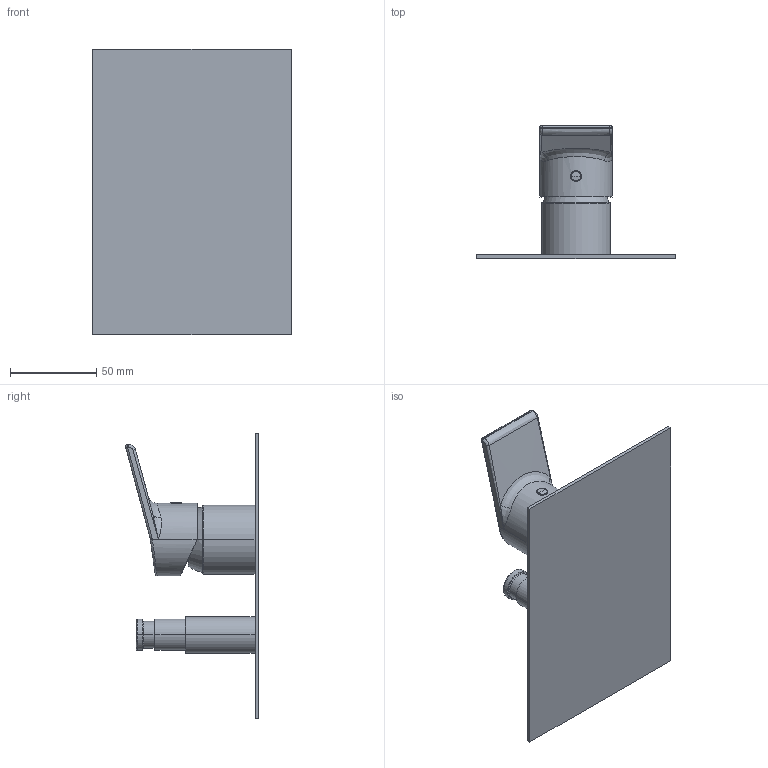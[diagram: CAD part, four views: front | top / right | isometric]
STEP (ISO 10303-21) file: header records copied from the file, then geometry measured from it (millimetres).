
FILE_DESCRIPTION((''),'2;1');
FILE_NAME('74010_SW0001','2025-07-14T11:27:50',('carloff'),(''),'CREO PARAMETRIC BY PTC INC, 2022014','CREO PARAMETRIC BY PTC INC, 2022014','');
FILE_SCHEMA(('CONFIG_CONTROL_DESIGN'));
Length unit declared in the file: millimetre
Products named in the file (1): 74010_SW0001
Bounding box: 115 x 76.87 x 165 mm (x, y, z)
Volume: 125214.8 mm3; surface area: 61811.3 mm2
Topology: 2 solids, 2 shells, 161 faces, 373 edges, 224 vertices
Faces by surface type: cylinder 53, plane 46, bspline 33, torus 14, cone 12, sphere 3
Entity records: 6766 total; most frequent: CARTESIAN_POINT 3356, ORIENTED_EDGE 742, DIRECTION 633, EDGE_CURVE 371, AXIS2_PLACEMENT_3D 247, VERTEX_POINT 224, EDGE_LOOP 173, FACE_OUTER_BOUND 161
